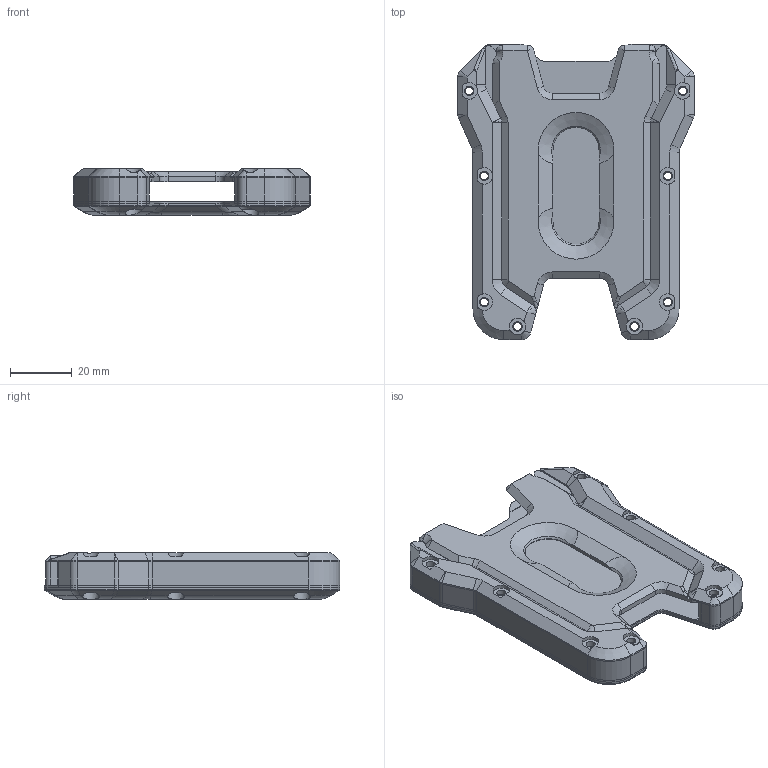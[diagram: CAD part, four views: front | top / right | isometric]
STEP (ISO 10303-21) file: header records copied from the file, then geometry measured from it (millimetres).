
FILE_DESCRIPTION(/* description */ (''),/* implementation_level */ '2;1');
FILE_NAME(/* name */ 'C:/Users/eggysayoga/Desktop/CardHolder/cardHolder.step',/* time_stamp */ '2021-02-17T18:57:13+08:00',/* author */ (''),/* organization */ (''),/* preprocessor_version */ 'ST-DEVELOPER v18.1',/* originating_system */ 'Autodesk Translation Framework v9.7.1.1290',/* authorisation */ '');
FILE_SCHEMA (('AUTOMOTIVE_DESIGN { 1 0 10303 214 3 1 1 }'));
Length unit declared in the file: millimetre
Products named in the file (2): (Unsaved); cardHolder
Assembly tree (1 placements, depth 2):
  (Unsaved)
    cardHolder
Bounding box: 76.78 x 96 x 15.2 mm (x, y, z)
Volume: 48825.1 mm3; surface area: 44910.5 mm2
Topology: 7 solids, 7 shells, 524 faces, 1356 edges, 824 vertices
Faces by surface type: cylinder 204, plane 198, bspline 76, cone 44, torus 2
Full cylindrical faces by diameter (mm): 2.5 x8, 3 x24, 5.4 x4
Entity records: 17884 total; most frequent: CARTESIAN_POINT 5017, DIRECTION 2712, ORIENTED_EDGE 2668, EDGE_CURVE 1334, AXIS2_PLACEMENT_3D 1009, VERTEX_POINT 824, LINE 694, VECTOR 694
